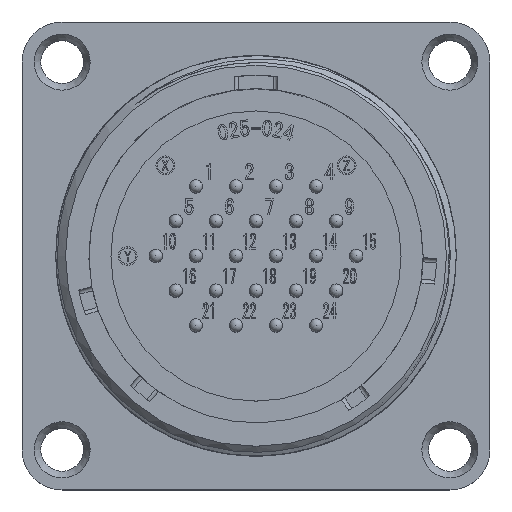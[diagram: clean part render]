
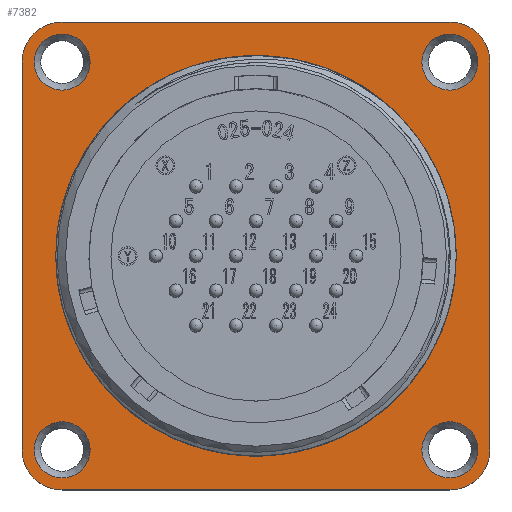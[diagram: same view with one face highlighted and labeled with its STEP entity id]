
A CAD part, top view. The second image highlights one B-rep face of the part: STEP entity #7382.
In plain terms, the highlighted planar face has unit normal (0, 0, 1).
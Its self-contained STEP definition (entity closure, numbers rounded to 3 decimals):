
#214 = CARTESIAN_POINT ( 'NONE',  ( -17.5, 14.5, -10.5 ) ) ;
#217 = EDGE_LOOP ( 'NONE', ( #48750 ) ) ;
#764 = DIRECTION ( 'NONE',  ( 1., 0., 0. ) ) ;
#1191 = DIRECTION ( 'NONE',  ( 1., 0., 0. ) ) ;
#3110 = CIRCLE ( 'NONE', #50475, 3. ) ;
#3232 = FACE_BOUND ( 'NONE', #217, .T. ) ;
#3343 = ORIENTED_EDGE ( 'NONE', *, *, #3741, .F. ) ;
#3549 = CARTESIAN_POINT ( 'NONE',  ( -14.5, -17.5, -10.5 ) ) ;
#3741 = EDGE_CURVE ( 'NONE', #72321, #58707, #63129, .T. ) ;
#3788 = EDGE_CURVE ( 'NONE', #88069, #62629, #27801, .T. ) ;
#4359 = FACE_BOUND ( 'NONE', #48804, .T. ) ;
#6135 = CARTESIAN_POINT ( 'NONE',  ( -17.5, 14.5, -10.5 ) ) ;
#6726 = EDGE_LOOP ( 'NONE', ( #24292, #41863, #59139, #40309, #61415, #77398, #3343, #51490 ) ) ;
#6770 = VECTOR ( 'NONE', #86691, 1000. ) ;
#7382 = ADVANCED_FACE ( 'NONE', ( #44504, #4359, #3232, #90779, #28671, #91959 ), #23639, .T. ) ;
#7705 = CARTESIAN_POINT ( 'NONE',  ( -14.5, -14.5, -10.5 ) ) ;
#9149 = AXIS2_PLACEMENT_3D ( 'NONE', #50376, #35056, #25878 ) ;
#9369 = CARTESIAN_POINT ( 'NONE',  ( -14.5, -14.5, -10.5 ) ) ;
#11204 = ORIENTED_EDGE ( 'NONE', *, *, #61920, .F. ) ;
#11882 = EDGE_CURVE ( 'NONE', #61528, #88069, #46335, .T. ) ;
#12047 = DIRECTION ( 'NONE',  ( 1., 0., 0. ) ) ;
#12648 = CARTESIAN_POINT ( 'NONE',  ( -12.4, 14.5, -10.5 ) ) ;
#13304 = CARTESIAN_POINT ( 'NONE',  ( -12.4, -14.5, -10.5 ) ) ;
#13615 = CARTESIAN_POINT ( 'NONE',  ( 14.5, 14.5, -10.5 ) ) ;
#14907 = AXIS2_PLACEMENT_3D ( 'NONE', #9369, #32132, #47115 ) ;
#15226 = LINE ( 'NONE', #100678, #6770 ) ;
#16096 = CARTESIAN_POINT ( 'NONE',  ( -14.5, -14.5, -10.5 ) ) ;
#16275 = CIRCLE ( 'NONE', #91581, 3. ) ;
#16296 = CARTESIAN_POINT ( 'NONE',  ( 14.5, -17.5, -10.5 ) ) ;
#19555 = EDGE_LOOP ( 'NONE', ( #62620 ) ) ;
#19985 = AXIS2_PLACEMENT_3D ( 'NONE', #62200, #31600, #30583 ) ;
#21119 = CARTESIAN_POINT ( 'NONE',  ( 14.5, 17.5, -10.5 ) ) ;
#21311 = AXIS2_PLACEMENT_3D ( 'NONE', #71003, #95210, #56405 ) ;
#23565 = CIRCLE ( 'NONE', #40781, 2.1 ) ;
#23575 = LINE ( 'NONE', #16296, #67126 ) ;
#23639 = PLANE ( 'NONE',  #14907 ) ;
#23666 = CARTESIAN_POINT ( 'NONE',  ( -14.5, 17.5, -10.5 ) ) ;
#23925 = DIRECTION ( 'NONE',  ( 0., 1., 0. ) ) ;
#24292 = ORIENTED_EDGE ( 'NONE', *, *, #78585, .F. ) ;
#24856 = VERTEX_POINT ( 'NONE', #12648 ) ;
#25878 = DIRECTION ( 'NONE',  ( 1., 0., 0. ) ) ;
#27169 = EDGE_CURVE ( 'NONE', #90649, #90649, #29666, .T. ) ;
#27801 = CIRCLE ( 'NONE', #21311, 3. ) ;
#28104 = CIRCLE ( 'NONE', #66974, 2.1 ) ;
#28671 = FACE_BOUND ( 'NONE', #84001, .T. ) ;
#29666 = CIRCLE ( 'NONE', #9149, 2.1 ) ;
#29769 = EDGE_CURVE ( 'NONE', #75976, #75976, #28104, .T. ) ;
#30103 = DIRECTION ( 'NONE',  ( 1., 0., 0. ) ) ;
#30242 = DIRECTION ( 'NONE',  ( -1., 0., 0. ) ) ;
#30583 = DIRECTION ( 'NONE',  ( 1., 0., 0. ) ) ;
#30935 = DIRECTION ( 'NONE',  ( 0., 0., -1. ) ) ;
#31427 = LINE ( 'NONE', #214, #44785 ) ;
#31575 = DIRECTION ( 'NONE',  ( -1., 0., 0. ) ) ;
#31600 = DIRECTION ( 'NONE',  ( 0., 0., -1. ) ) ;
#31605 = CARTESIAN_POINT ( 'NONE',  ( 0., 0., -10.5 ) ) ;
#31793 = VECTOR ( 'NONE', #89789, 1000. ) ;
#32132 = DIRECTION ( 'NONE',  ( 0., 0., 1. ) ) ;
#35056 = DIRECTION ( 'NONE',  ( 0., 0., 1. ) ) ;
#35439 = CARTESIAN_POINT ( 'NONE',  ( 14.98, 0., -10.5 ) ) ;
#35871 = EDGE_CURVE ( 'NONE', #58707, #98411, #15226, .T. ) ;
#36724 = DIRECTION ( 'NONE',  ( 0., 0., 1. ) ) ;
#39000 = EDGE_CURVE ( 'NONE', #58983, #58983, #82635, .T. ) ;
#39925 = EDGE_CURVE ( 'NONE', #90558, #72321, #31427, .T. ) ;
#40309 = ORIENTED_EDGE ( 'NONE', *, *, #11882, .F. ) ;
#40781 = AXIS2_PLACEMENT_3D ( 'NONE', #16096, #47706, #1191 ) ;
#41863 = ORIENTED_EDGE ( 'NONE', *, *, #94886, .F. ) ;
#41923 = CARTESIAN_POINT ( 'NONE',  ( 16.6, -14.5, -10.5 ) ) ;
#42047 = CIRCLE ( 'NONE', #57017, 2.1 ) ;
#44504 = FACE_OUTER_BOUND ( 'NONE', #6726, .T. ) ;
#44785 = VECTOR ( 'NONE', #23925, 1000. ) ;
#46335 = LINE ( 'NONE', #89465, #31793 ) ;
#47115 = DIRECTION ( 'NONE',  ( 1., 0., 0. ) ) ;
#47706 = DIRECTION ( 'NONE',  ( 0., 0., 1. ) ) ;
#48331 = VERTEX_POINT ( 'NONE', #3549 ) ;
#48750 = ORIENTED_EDGE ( 'NONE', *, *, #29769, .F. ) ;
#48804 = EDGE_LOOP ( 'NONE', ( #11204 ) ) ;
#50376 = CARTESIAN_POINT ( 'NONE',  ( 14.5, 14.5, -10.5 ) ) ;
#50475 = AXIS2_PLACEMENT_3D ( 'NONE', #7705, #62056, #30103 ) ;
#51490 = ORIENTED_EDGE ( 'NONE', *, *, #39925, .F. ) ;
#56405 = DIRECTION ( 'NONE',  ( -1., 0., 0. ) ) ;
#57017 = AXIS2_PLACEMENT_3D ( 'NONE', #87780, #36724, #59479 ) ;
#58707 = VERTEX_POINT ( 'NONE', #23666 ) ;
#58983 = VERTEX_POINT ( 'NONE', #35439 ) ;
#59139 = ORIENTED_EDGE ( 'NONE', *, *, #3788, .F. ) ;
#59479 = DIRECTION ( 'NONE',  ( 1., 0., 0. ) ) ;
#61195 = DIRECTION ( 'NONE',  ( 0., 0., -1. ) ) ;
#61415 = ORIENTED_EDGE ( 'NONE', *, *, #62380, .F. ) ;
#61528 = VERTEX_POINT ( 'NONE', #70847 ) ;
#61920 = EDGE_CURVE ( 'NONE', #91836, #91836, #23565, .T. ) ;
#62056 = DIRECTION ( 'NONE',  ( 0., 0., -1. ) ) ;
#62200 = CARTESIAN_POINT ( 'NONE',  ( -14.5, 14.5, -10.5 ) ) ;
#62380 = EDGE_CURVE ( 'NONE', #98411, #61528, #16275, .T. ) ;
#62620 = ORIENTED_EDGE ( 'NONE', *, *, #27169, .F. ) ;
#62629 = VERTEX_POINT ( 'NONE', #72689 ) ;
#63129 = CIRCLE ( 'NONE', #19985, 3. ) ;
#65881 = AXIS2_PLACEMENT_3D ( 'NONE', #31605, #30935, #764 ) ;
#66719 = CARTESIAN_POINT ( 'NONE',  ( 14.5, -14.5, -10.5 ) ) ;
#66974 = AXIS2_PLACEMENT_3D ( 'NONE', #66719, #73898, #12047 ) ;
#67126 = VECTOR ( 'NONE', #31575, 1000. ) ;
#69556 = ORIENTED_EDGE ( 'NONE', *, *, #77855, .F. ) ;
#70847 = CARTESIAN_POINT ( 'NONE',  ( 17.5, 14.5, -10.5 ) ) ;
#71003 = CARTESIAN_POINT ( 'NONE',  ( 14.5, -14.5, -10.5 ) ) ;
#72321 = VERTEX_POINT ( 'NONE', #6135 ) ;
#72689 = CARTESIAN_POINT ( 'NONE',  ( 14.5, -17.5, -10.5 ) ) ;
#73898 = DIRECTION ( 'NONE',  ( 0., 0., 1. ) ) ;
#75818 = ORIENTED_EDGE ( 'NONE', *, *, #39000, .T. ) ;
#75976 = VERTEX_POINT ( 'NONE', #41923 ) ;
#77398 = ORIENTED_EDGE ( 'NONE', *, *, #35871, .F. ) ;
#77855 = EDGE_CURVE ( 'NONE', #24856, #24856, #42047, .T. ) ;
#78585 = EDGE_CURVE ( 'NONE', #48331, #90558, #3110, .T. ) ;
#79376 = CARTESIAN_POINT ( 'NONE',  ( 17.5, -14.5, -10.5 ) ) ;
#81011 = CARTESIAN_POINT ( 'NONE',  ( 16.6, 14.5, -10.5 ) ) ;
#82635 = CIRCLE ( 'NONE', #65881, 14.98 ) ;
#84001 = EDGE_LOOP ( 'NONE', ( #69556 ) ) ;
#86691 = DIRECTION ( 'NONE',  ( 1., 0., 0. ) ) ;
#87780 = CARTESIAN_POINT ( 'NONE',  ( -14.5, 14.5, -10.5 ) ) ;
#88069 = VERTEX_POINT ( 'NONE', #79376 ) ;
#89465 = CARTESIAN_POINT ( 'NONE',  ( 17.5, 14.5, -10.5 ) ) ;
#89789 = DIRECTION ( 'NONE',  ( 0., -1., 0. ) ) ;
#90558 = VERTEX_POINT ( 'NONE', #94307 ) ;
#90649 = VERTEX_POINT ( 'NONE', #81011 ) ;
#90779 = FACE_BOUND ( 'NONE', #19555, .T. ) ;
#91581 = AXIS2_PLACEMENT_3D ( 'NONE', #13615, #61195, #30242 ) ;
#91836 = VERTEX_POINT ( 'NONE', #13304 ) ;
#91959 = FACE_BOUND ( 'NONE', #100283, .T. ) ;
#94307 = CARTESIAN_POINT ( 'NONE',  ( -17.5, -14.5, -10.5 ) ) ;
#94886 = EDGE_CURVE ( 'NONE', #62629, #48331, #23575, .T. ) ;
#95210 = DIRECTION ( 'NONE',  ( 0., 0., -1. ) ) ;
#98411 = VERTEX_POINT ( 'NONE', #21119 ) ;
#100283 = EDGE_LOOP ( 'NONE', ( #75818 ) ) ;
#100678 = CARTESIAN_POINT ( 'NONE',  ( 14.5, 17.5, -10.5 ) ) ;
